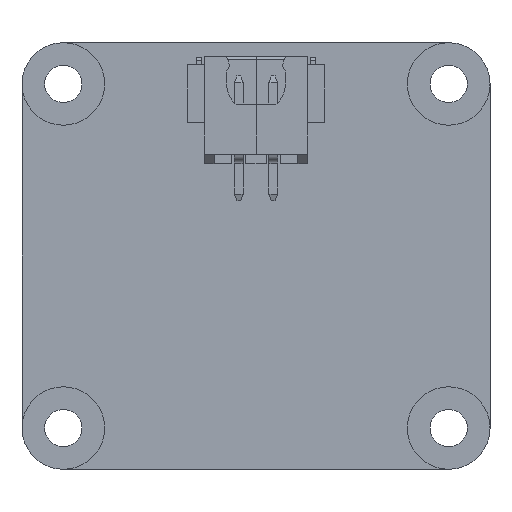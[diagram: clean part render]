
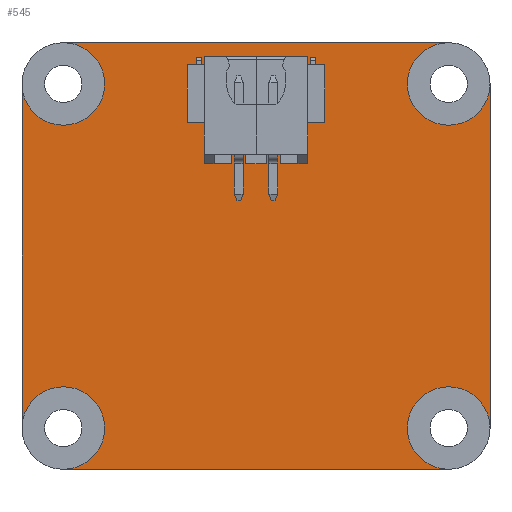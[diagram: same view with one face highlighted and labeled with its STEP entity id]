
A CAD part, front view. The second image highlights one B-rep face of the part: STEP entity #545.
In plain terms, the highlighted planar face has unit normal (0, -1, 0).
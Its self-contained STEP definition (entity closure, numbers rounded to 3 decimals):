
#2=CARTESIAN_POINT('',(-14.,0.,-12.5));
#3=DIRECTION('',(0.,1.,0.));
#4=DIRECTION('',(1.,0.,0.));
#5=AXIS2_PLACEMENT_3D('',#2,#3,#4);
#7=CARTESIAN_POINT('',(-14.,0.,-12.5));
#8=DIRECTION('',(0.,1.,0.));
#9=DIRECTION('',(-1.,0.,0.));
#10=AXIS2_PLACEMENT_3D('',#7,#8,#9);
#12=DIRECTION('',(0.,0.,1.));
#13=VECTOR('',#12,25.);
#14=CARTESIAN_POINT('',(-17.,0.,-12.5));
#15=LINE('',#14,#13);
#16=CARTESIAN_POINT('',(-14.,0.,12.5));
#17=DIRECTION('',(0.,1.,0.));
#18=DIRECTION('',(1.,0.,0.));
#19=AXIS2_PLACEMENT_3D('',#16,#17,#18);
#21=CARTESIAN_POINT('',(-14.,0.,12.5));
#22=DIRECTION('',(0.,1.,0.));
#23=DIRECTION('',(0.,0.,1.));
#24=AXIS2_PLACEMENT_3D('',#21,#22,#23);
#26=DIRECTION('',(1.,0.,0.));
#27=VECTOR('',#26,28.);
#28=CARTESIAN_POINT('',(-14.,0.,15.5));
#29=LINE('',#28,#27);
#30=CARTESIAN_POINT('',(14.,0.,12.5));
#31=DIRECTION('',(0.,1.,0.));
#32=DIRECTION('',(-1.,0.,0.));
#33=AXIS2_PLACEMENT_3D('',#30,#31,#32);
#35=CARTESIAN_POINT('',(14.,0.,12.5));
#36=DIRECTION('',(0.,1.,0.));
#37=DIRECTION('',(1.,0.,0.));
#38=AXIS2_PLACEMENT_3D('',#35,#36,#37);
#40=DIRECTION('',(0.,0.,-1.));
#41=VECTOR('',#40,25.);
#42=CARTESIAN_POINT('',(17.,0.,12.5));
#43=LINE('',#42,#41);
#44=CARTESIAN_POINT('',(14.,0.,-12.5));
#45=DIRECTION('',(0.,1.,0.));
#46=DIRECTION('',(-1.,0.,0.));
#47=AXIS2_PLACEMENT_3D('',#44,#45,#46);
#49=CARTESIAN_POINT('',(14.,0.,-12.5));
#50=DIRECTION('',(0.,1.,0.));
#51=DIRECTION('',(0.,0.,-1.));
#52=AXIS2_PLACEMENT_3D('',#49,#50,#51);
#54=DIRECTION('',(-1.,0.,0.));
#55=VECTOR('',#54,28.);
#56=CARTESIAN_POINT('',(14.,0.,-15.5));
#57=LINE('',#56,#55);
#466=CARTESIAN_POINT('',(-11.,0.,-12.5));
#467=CARTESIAN_POINT('',(-14.,0.,-15.5));
#468=VERTEX_POINT('',#466);
#469=VERTEX_POINT('',#467);
#470=CARTESIAN_POINT('',(-17.,0.,-12.5));
#471=VERTEX_POINT('',#470);
#472=CARTESIAN_POINT('',(11.,0.,-12.5));
#473=CARTESIAN_POINT('',(17.,0.,-12.5));
#474=VERTEX_POINT('',#472);
#475=VERTEX_POINT('',#473);
#476=CARTESIAN_POINT('',(-11.,0.,12.5));
#477=CARTESIAN_POINT('',(-17.,0.,12.5));
#478=VERTEX_POINT('',#476);
#479=VERTEX_POINT('',#477);
#480=CARTESIAN_POINT('',(17.,0.,12.5));
#481=CARTESIAN_POINT('',(11.,0.,12.5));
#482=VERTEX_POINT('',#480);
#483=VERTEX_POINT('',#481);
#484=CARTESIAN_POINT('',(14.,0.,15.5));
#485=VERTEX_POINT('',#484);
#506=CARTESIAN_POINT('',(14.,0.,-15.5));
#507=VERTEX_POINT('',#506);
#508=CARTESIAN_POINT('',(-14.,0.,15.5));
#509=VERTEX_POINT('',#508);
#514=CARTESIAN_POINT('',(0.,0.,0.));
#515=DIRECTION('',(0.,1.,0.));
#516=DIRECTION('',(1.,0.,0.));
#517=AXIS2_PLACEMENT_3D('',#514,#515,#516);
#518=PLANE('',#517);
#520=ORIENTED_EDGE('',*,*,#519,.F.);
#522=ORIENTED_EDGE('',*,*,#521,.F.);
#524=ORIENTED_EDGE('',*,*,#523,.T.);
#526=ORIENTED_EDGE('',*,*,#525,.F.);
#528=ORIENTED_EDGE('',*,*,#527,.F.);
#530=ORIENTED_EDGE('',*,*,#529,.T.);
#532=ORIENTED_EDGE('',*,*,#531,.F.);
#534=ORIENTED_EDGE('',*,*,#533,.F.);
#536=ORIENTED_EDGE('',*,*,#535,.T.);
#538=ORIENTED_EDGE('',*,*,#537,.F.);
#540=ORIENTED_EDGE('',*,*,#539,.F.);
#542=ORIENTED_EDGE('',*,*,#541,.T.);
#543=EDGE_LOOP('',(#520,#522,#524,#526,#528,#530,#532,#534,#536,#538,#540,
#542));
#544=FACE_OUTER_BOUND('',#543,.F.);
#545=ADVANCED_FACE('',(#544),#518,.F.);
#6=CIRCLE('',#5,3.);
#11=CIRCLE('',#10,3.);
#20=CIRCLE('',#19,3.);
#25=CIRCLE('',#24,3.);
#34=CIRCLE('',#33,3.);
#39=CIRCLE('',#38,3.);
#48=CIRCLE('',#47,3.);
#53=CIRCLE('',#52,3.);
#519=EDGE_CURVE('',#468,#469,#6,.T.);
#521=EDGE_CURVE('',#471,#468,#11,.T.);
#523=EDGE_CURVE('',#471,#479,#15,.T.);
#525=EDGE_CURVE('',#478,#479,#20,.T.);
#527=EDGE_CURVE('',#509,#478,#25,.T.);
#529=EDGE_CURVE('',#509,#485,#29,.T.);
#531=EDGE_CURVE('',#483,#485,#34,.T.);
#533=EDGE_CURVE('',#482,#483,#39,.T.);
#535=EDGE_CURVE('',#482,#475,#43,.T.);
#537=EDGE_CURVE('',#474,#475,#48,.T.);
#539=EDGE_CURVE('',#507,#474,#53,.T.);
#541=EDGE_CURVE('',#507,#469,#57,.T.);
